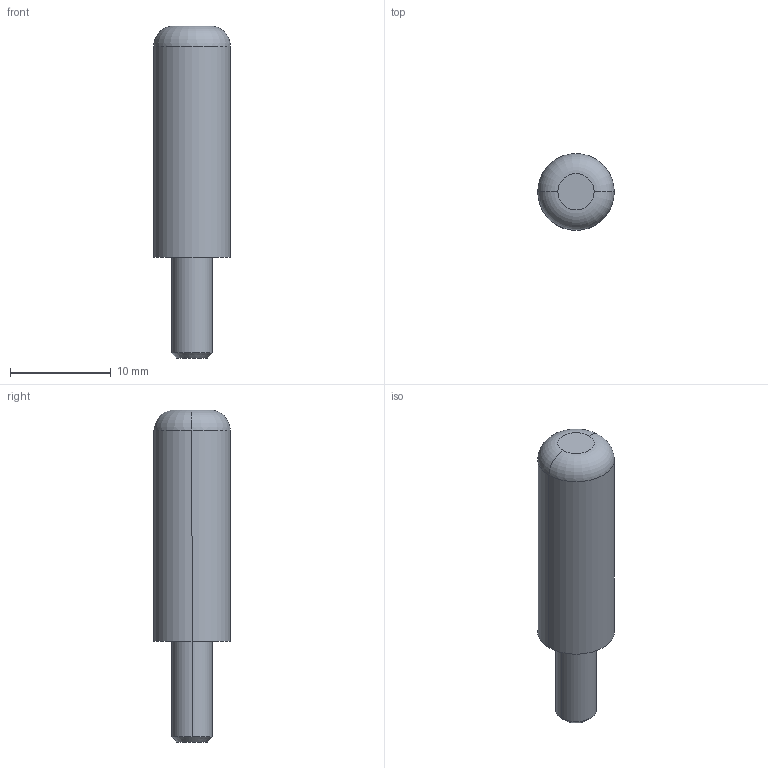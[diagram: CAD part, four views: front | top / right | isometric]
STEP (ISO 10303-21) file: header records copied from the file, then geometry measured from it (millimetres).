
FILE_DESCRIPTION(('CATIA V5 STEP Exchange'),'2;1');
FILE_NAME('D:\姚明阳\速降阀压支撑圈工装1\GZ23.02_V2.stp','2021-03-14T07:44:46+00:00',('none'),('none'),'CATIA Version 5 Release 21 GA (IN-10)','CATIA V5 STEP AP214','none');
FILE_SCHEMA(('AUTOMOTIVE_DESIGN { 1 0 10303 214 1 1 1 1 }'));
Length unit declared in the file: millimetre
Products named in the file (1): Part2
Bounding box: 7.6 x 7.6 x 33 mm (x, y, z)
Volume: 1149.5 mm3; surface area: 739.3 mm2
Topology: 1 solids, 1 shells, 11 faces, 20 edges, 12 vertices
Faces by surface type: cylinder 4, plane 3, cone 2, torus 2
Entity records: 274 total; most frequent: CARTESIAN_POINT 42, ORIENTED_EDGE 40, DIRECTION 38, AXIS2_PLACEMENT_3D 24, EDGE_CURVE 20, CIRCLE 14, EDGE_LOOP 12, VERTEX_POINT 12
